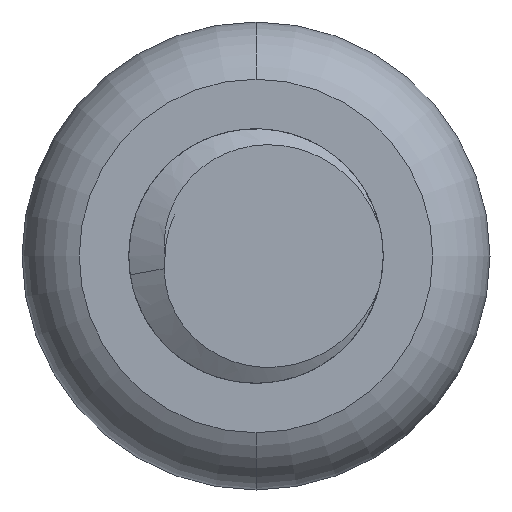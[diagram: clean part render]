
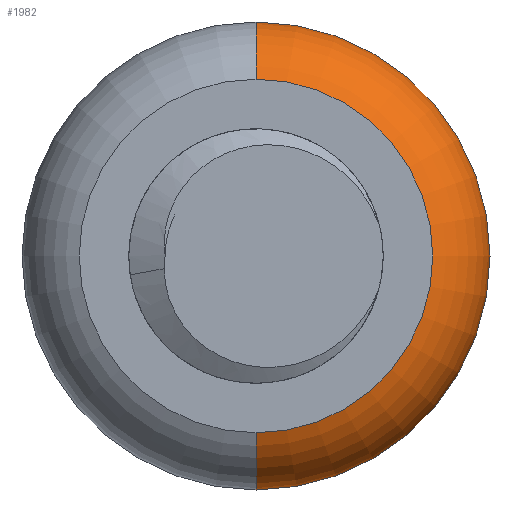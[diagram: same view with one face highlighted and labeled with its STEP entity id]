
A CAD part, front view. The second image highlights one B-rep face of the part: STEP entity #1982.
In plain terms, the highlighted toroidal (fillet/blend) face has major radius 2.211 mm and minor radius 1.379 mm.
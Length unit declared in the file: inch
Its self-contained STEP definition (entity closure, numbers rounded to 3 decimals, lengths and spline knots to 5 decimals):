
#224 = FACE_OUTER_BOUND ( 'NONE', #4847, .T. ) ;
#266 = DIRECTION ( 'NONE',  ( 0., 1., 0. ) ) ;
#508 = EDGE_CURVE ( 'NONE', #3419, #3726, #3622, .T. ) ;
#703 = CARTESIAN_POINT ( 'NONE',  ( 0., 0.4443, 0. ) ) ;
#719 = ORIENTED_EDGE ( 'NONE', *, *, #508, .F. ) ;
#734 = DIRECTION ( 'NONE',  ( 0., 1., 0. ) ) ;
#1121 = AXIS2_PLACEMENT_3D ( 'NONE', #703, #5635, #5154 ) ;
#1149 = DIRECTION ( 'NONE',  ( 1., 0., 0. ) ) ;
#1536 = CARTESIAN_POINT ( 'NONE',  ( 0., 0.49585, 0. ) ) ;
#1568 = DIRECTION ( 'NONE',  ( 0., 0., 1. ) ) ;
#1982 = ADVANCED_FACE ( 'NONE', ( #224 ), #5458, .T. ) ;
#2069 = CIRCLE ( 'NONE', #3580, 0.0543 ) ;
#2102 = EDGE_CURVE ( 'NONE', #5741, #3726, #3895, .T. ) ;
#2695 = ORIENTED_EDGE ( 'NONE', *, *, #4621, .T. ) ;
#3147 = AXIS2_PLACEMENT_3D ( 'NONE', #3945, #734, #5756 ) ;
#3294 = ORIENTED_EDGE ( 'NONE', *, *, #5307, .F. ) ;
#3419 = VERTEX_POINT ( 'NONE', #5135 ) ;
#3580 = AXIS2_PLACEMENT_3D ( 'NONE', #4275, #1149, #3774 ) ;
#3622 = CIRCLE ( 'NONE', #5624, 0.0543 ) ;
#3629 = CARTESIAN_POINT ( 'NONE',  ( 0., 0.49585, 0.10411 ) ) ;
#3726 = VERTEX_POINT ( 'NONE', #4294 ) ;
#3774 = DIRECTION ( 'NONE',  ( 0., 0.949, 0.314 ) ) ;
#3856 = CIRCLE ( 'NONE', #4613, 0.10411 ) ;
#3895 = CIRCLE ( 'NONE', #3147, 0.10673 ) ;
#3945 = CARTESIAN_POINT ( 'NONE',  ( 0., 0.3937, 0. ) ) ;
#4034 = CARTESIAN_POINT ( 'NONE',  ( 0., 0.3937, 0.10673 ) ) ;
#4275 = CARTESIAN_POINT ( 'NONE',  ( 0., 0.4443, 0.08704 ) ) ;
#4294 = CARTESIAN_POINT ( 'NONE',  ( 0., 0.3937, -0.10673 ) ) ;
#4519 = VERTEX_POINT ( 'NONE', #3629 ) ;
#4609 = ORIENTED_EDGE ( 'NONE', *, *, #2102, .T. ) ;
#4613 = AXIS2_PLACEMENT_3D ( 'NONE', #1536, #266, #1568 ) ;
#4621 = EDGE_CURVE ( 'NONE', #4519, #5741, #2069, .T. ) ;
#4847 = EDGE_LOOP ( 'NONE', ( #4609, #719, #3294, #2695 ) ) ;
#5095 = DIRECTION ( 'NONE',  ( -1., 0., 0. ) ) ;
#5135 = CARTESIAN_POINT ( 'NONE',  ( 0., 0.49585, -0.10411 ) ) ;
#5154 = DIRECTION ( 'NONE',  ( 0., 0., -1. ) ) ;
#5307 = EDGE_CURVE ( 'NONE', #4519, #3419, #3856, .T. ) ;
#5458 = TOROIDAL_SURFACE ( 'NONE', #1121, 0.08704, 0.0543 ) ;
#5576 = CARTESIAN_POINT ( 'NONE',  ( 0., 0.4443, -0.08704 ) ) ;
#5607 = DIRECTION ( 'NONE',  ( 0., 0.949, -0.314 ) ) ;
#5624 = AXIS2_PLACEMENT_3D ( 'NONE', #5576, #5095, #5607 ) ;
#5635 = DIRECTION ( 'NONE',  ( 0., 1., 0. ) ) ;
#5741 = VERTEX_POINT ( 'NONE', #4034 ) ;
#5756 = DIRECTION ( 'NONE',  ( 0., 0., 1. ) ) ;
